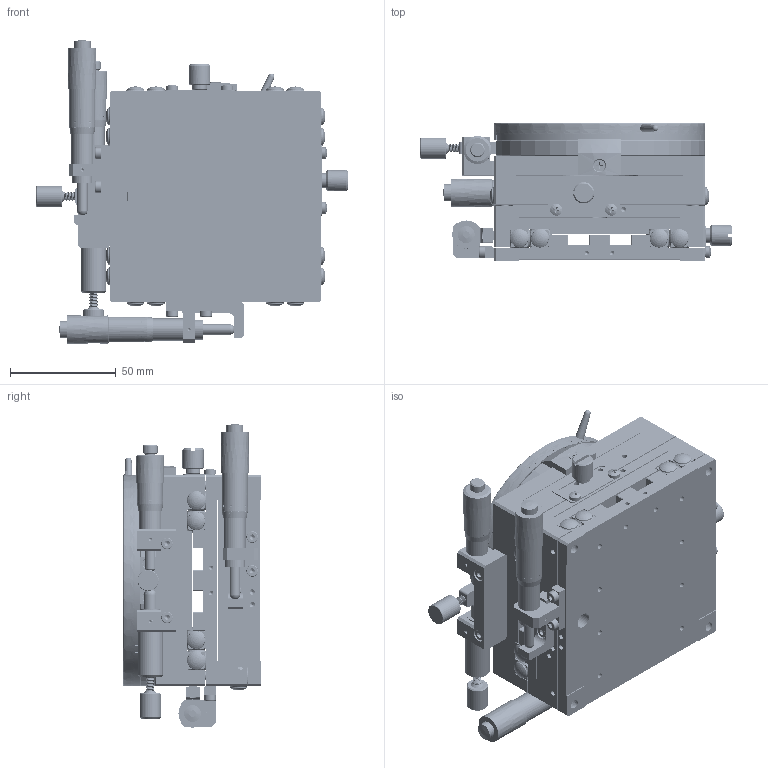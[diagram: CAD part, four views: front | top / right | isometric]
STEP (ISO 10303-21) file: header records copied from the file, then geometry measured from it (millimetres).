
FILE_DESCRIPTION (( 'STEP AP203' ), '1' );
FILE_NAME ('BLR100.STEP', '2024-07-27T07:51:57', ( 'Windows User' ), ( 'P R C' ), 'SwSTEP 2.0', 'SolidWorks 2024', '' );
FILE_SCHEMA (( 'CONFIG_CONTROL_DESIGN' ));
Products named in the file (1): BLR100
Bounding box: 147.2 x 65 x 143.45 mm (x, y, z)
Volume: 559612.2 mm3; surface area: 267782.8 mm2
Topology: 69 solids, 69 shells, 6475 faces, 18244 edges, 12430 vertices
Faces by surface type: plane 3205, bspline 1532, cylinder 1053, cone 627, torus 50, sphere 8
Full cylindrical faces by diameter (mm): 2.05 x10, 2.5 x97, 2.6 x1, 2.8 x1, 2.85 x1, 2.9 x2, 3 x75, 3.1 x4, 3.2 x6, 3.3 x86, 3.4 x6, 4 x6, 4.5 x12, 5 x9, 5.3 x1, 5.5 x11, 5.6 x4, 5.8 x4, 6 x36, 7 x7, 7.5 x2, 8 x16, 8.1 x2, 8.5 x1, 8.8 x1, 9.5 x9, 10 x4, 10.373 x2, 10.5 x1, 12 x1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
Entity records: 361515 total; most frequent: CARTESIAN_POINT 213930, ORIENTED_EDGE 34396, DIRECTION 22436, EDGE_CURVE 17198, VERTEX_POINT 12232, EDGE_LOOP 8436, AXIS2_PLACEMENT_3D 7634, LINE 7168
